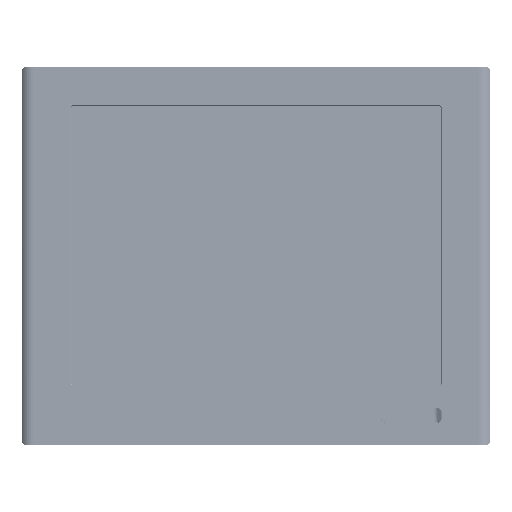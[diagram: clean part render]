
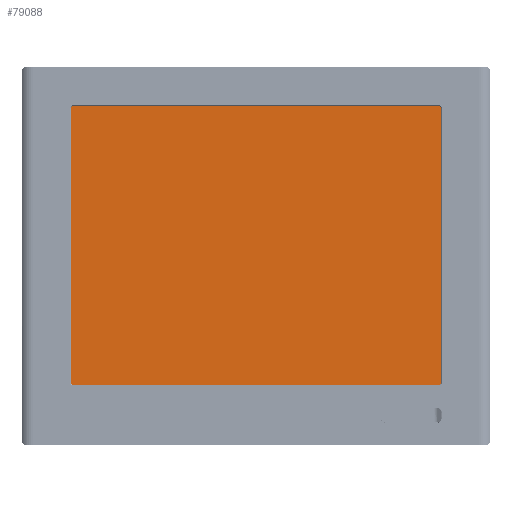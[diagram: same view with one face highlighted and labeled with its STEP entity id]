
A CAD part, front view. The second image highlights one B-rep face of the part: STEP entity #79088.
In plain terms, the highlighted planar face has unit normal (0, -1, 0).
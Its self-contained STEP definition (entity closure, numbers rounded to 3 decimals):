
#75873=DIRECTION('',(1.,0.,0.));
#75874=VECTOR('',#75873,310.9);
#75875=CARTESIAN_POINT('',(-155.45,-23.6,116.2));
#75876=LINE('',#75875,#75874);
#75877=DIRECTION('',(0.,0.,-1.));
#75878=VECTOR('',#75877,234.9);
#75879=CARTESIAN_POINT('',(155.45,-23.6,116.2));
#75880=LINE('',#75879,#75878);
#75881=DIRECTION('',(-1.,0.,0.));
#75882=VECTOR('',#75881,310.9);
#75883=CARTESIAN_POINT('',(155.45,-23.6,-118.7));
#75884=LINE('',#75883,#75882);
#75885=DIRECTION('',(0.,0.,1.));
#75886=VECTOR('',#75885,234.9);
#75887=CARTESIAN_POINT('',(-155.45,-23.6,-118.7));
#75888=LINE('',#75887,#75886);
#77347=CARTESIAN_POINT('',(-155.45,-23.6,116.2));
#77348=CARTESIAN_POINT('',(155.45,-23.6,116.2));
#77349=VERTEX_POINT('',#77347);
#77350=VERTEX_POINT('',#77348);
#77351=CARTESIAN_POINT('',(155.45,-23.6,-118.7));
#77352=VERTEX_POINT('',#77351);
#77353=CARTESIAN_POINT('',(-155.45,-23.6,-118.7));
#77354=VERTEX_POINT('',#77353);
#79073=CARTESIAN_POINT('',(-4.,-23.6,-1.25));
#79074=DIRECTION('',(0.,-1.,0.));
#79075=DIRECTION('',(1.,0.,0.));
#79076=AXIS2_PLACEMENT_3D('',#79073,#79074,#79075);
#79077=PLANE('',#79076);
#79079=ORIENTED_EDGE('',*,*,#79078,.T.);
#79081=ORIENTED_EDGE('',*,*,#79080,.T.);
#79083=ORIENTED_EDGE('',*,*,#79082,.T.);
#79085=ORIENTED_EDGE('',*,*,#79084,.T.);
#79086=EDGE_LOOP('',(#79079,#79081,#79083,#79085));
#79087=FACE_OUTER_BOUND('',#79086,.F.);
#79078=EDGE_CURVE('',#77349,#77350,#75876,.T.);
#79080=EDGE_CURVE('',#77350,#77352,#75880,.T.);
#79082=EDGE_CURVE('',#77352,#77354,#75884,.T.);
#79084=EDGE_CURVE('',#77354,#77349,#75888,.T.);
#79088=ADVANCED_FACE('',(#79087),#79077,.T.);
